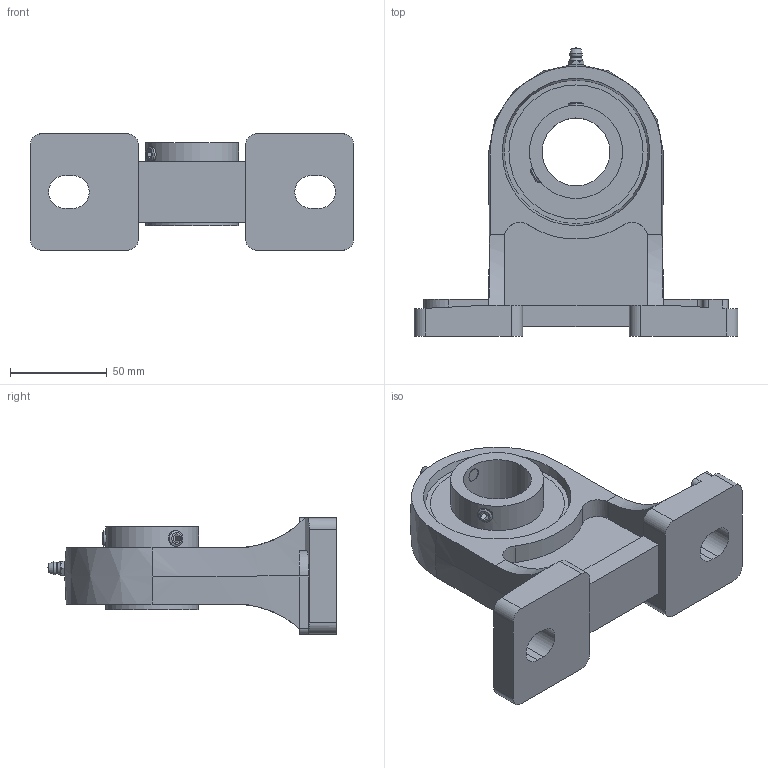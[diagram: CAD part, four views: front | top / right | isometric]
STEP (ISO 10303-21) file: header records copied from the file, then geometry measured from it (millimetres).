
FILE_DESCRIPTION((''),'2;1');
FILE_NAME('\\Ts-tgl068\j-cad-d-base\00.3DCADデータ作成フォルダ\01.ピロー形\UCPH200\UCPH207.stp','2014-04-18T08:30:29',('btec_1106_2'),(''),'Autodesk Inventor 2012','Autodesk Inventor 2012','');
FILE_SCHEMA(('AUTOMOTIVE_DESIGN { 1 0 10303 214 1 1 1 1 }'));
Length unit declared in the file: millimetre
Products named in the file (4): UCPH200; PH [番手=207 ul]; シリーズUC [番手=207 ul]; GU1
Assembly tree (3 placements, depth 2):
  UCPH200
    PH [番手=207 ul]
    シリーズUC [番手=207 ul]
    GU1
Bounding box: 167 x 148.79 x 60 mm (x, y, z)
Volume: 320758 mm3; surface area: 75984.1 mm2
Topology: 3 solids, 3 shells, 145 faces, 363 edges, 233 vertices
Faces by surface type: plane 76, cylinder 41, cone 17, bspline 5, sphere 4, torus 2
Full cylindrical faces by diameter (mm): 5.359 x1, 6.35 x1, 8 x2, 35 x1, 48 x2
Entity records: 4564 total; most frequent: CARTESIAN_POINT 1120, DIRECTION 682, ORIENTED_EDGE 666, EDGE_CURVE 333, AXIS2_PLACEMENT_3D 250, VERTEX_POINT 223, EDGE_LOOP 184, VECTOR 182
